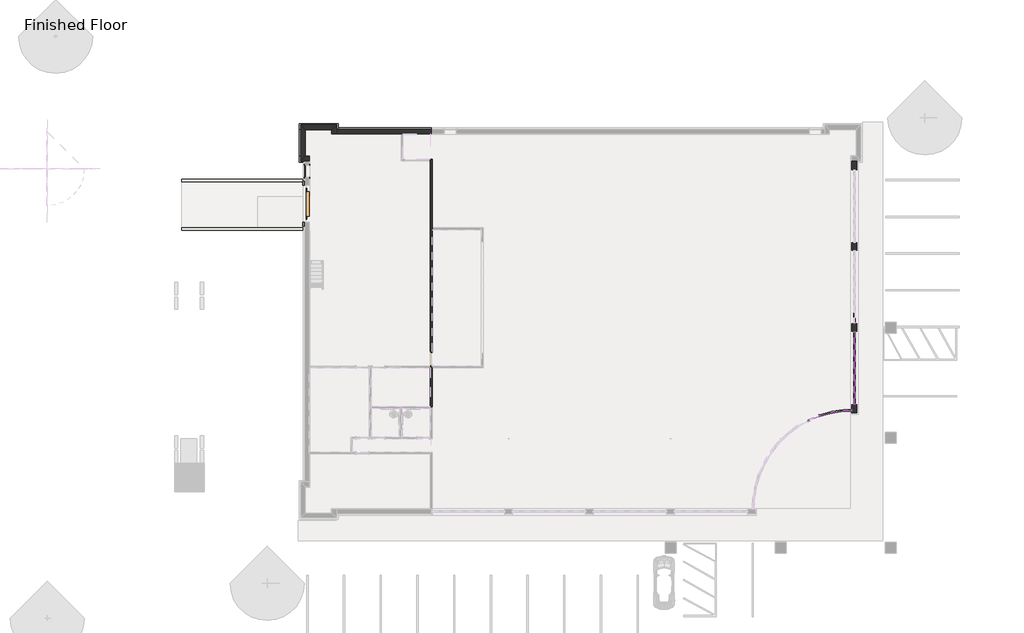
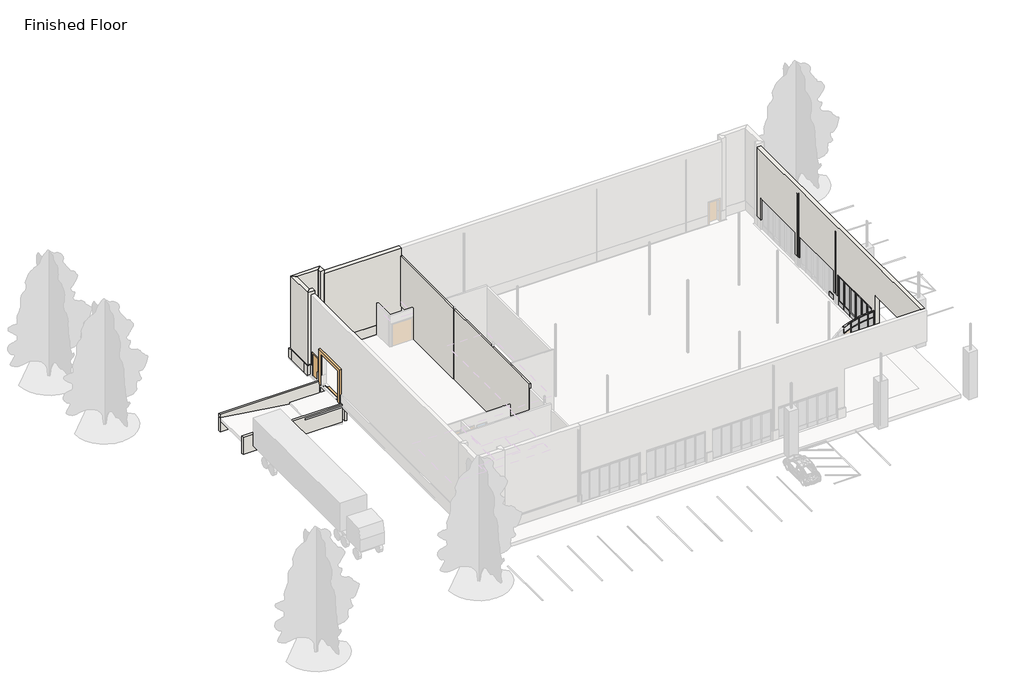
# One storey, part 4 of 6: 55 members, 18 plates, 15 walls, 2 doors.
"""IFC4 building model written with IfcOpenShell, lengths in millimetres."""

from ifc_helpers import new_model, si_unit, frame, origin, place, context, project, spatial, polyline, circle_curve, outline, extrude, faceted_brep, transform, mapped, element, save
from ifc_brep_helpers import plane_surface, revolved_surface, advanced_brep
from components import door_9096417d, door_632be17d, member_d2e7e466, member_7db1855a, member_a397ac22, member_d702d02f, member_57980dff, member_b5e65c95, member_069002c8, member_a75f139a, member_8a16213d, member_a608d019, member_c5eeba41, member_830eb86c, member_dbd57660, member_24c26854, member_d4789dbb, member_c17f1be2, member_ad567e07, member_7c546d85, member_6e77e263, rectangular_mullion_tall_mullion_dc5872ae, rectangular_mullion_tall_mullion_643de06f, system_panel_glazed_a343adf7, system_panel_glazed_9a2244e3, system_panel_glazed_6d8c8de5, system_panel_glazed_2d85ec54, system_panel_glazed_f449fc8c, system_panel_glazed_de0f3d3d, system_panel_glazed_0196836e, system_panel_glazed_685ee558

model = new_model("IFC4")

# Units and contexts
model_context = context("Model", 3, world=origin())
ifc_project = project(units=[si_unit("LENGTHUNIT", "METRE", prefix="MILLI")], contexts=[model_context])

# Site, building, storey
site = spatial("IfcSite", under=ifc_project)
building = spatial("IfcBuilding", under=site)
storey = spatial("IfcBuildingStorey", under=building, Name="Finished Floor", Elevation=0.0)

# Doors
placement = place(None, origin())
door_shape = door_9096417d(model_context)
element("IfcDoor", 1, ObjectType="OHD_WPADS_2491 : 8' x 6'-6\"", at=placement, inside=storey, context=model_context, shape_type="MappedRepresentation", body=[
    mapped(door_shape, transform((-22243.2602721, 8757.8686943, 0.0), x_axis=(0.0, -1.0, 0.0), y_axis=(1.0, 0.0, 0.0), z_axis=(0.0, 0.0, 1.0))),
])
door_2_shape = door_632be17d(model_context)
element("IfcDoor", 2, ObjectType="Single-Flush : 36\" x 84\"", at=placement, inside=storey, context=model_context, shape_type="MappedRepresentation", body=[
    mapped(door_2_shape, transform((-22243.2602721, 11196.2686943, 0.0), x_axis=(0.0, 1.0, 0.0), y_axis=(-1.0, 0.0, 0.0), z_axis=(0.0, 0.0, 1.0))),
])

# Members
member_shape = member_d2e7e466(model_context)
element("IfcMember", 3, ObjectType="Rectangular Mullion : 2.5\" x 5\" rectangular", at=placement, inside=storey, context=model_context, shape_type="MappedRepresentation", body=[
    mapped(member_shape, transform((18653.9147279, -3543.6688057, 3048.0), x_axis=(0.0, 0.0, 1.0), y_axis=(1.0, 0.0, 0.0), z_axis=(0.0, 1.0, 0.0))),
])
element("IfcMember", 4, ObjectType="Rectangular Mullion : 2.5\" x 5\" rectangular", at=placement, inside=storey, context=model_context, shape_type="MappedRepresentation", body=[
    mapped(member_shape, transform((18653.9147279, -2629.2688057, 3048.0), x_axis=(0.0, 0.0, 1.0), y_axis=(1.0, 0.0, 0.0), z_axis=(0.0, 1.0, 0.0))),
])
element("IfcMember", 5, ObjectType="Rectangular Mullion : 2.5\" x 5\" rectangular", at=placement, inside=storey, context=model_context, shape_type="MappedRepresentation", body=[
    mapped(member_shape, transform((18653.9147279, -1714.8688057, 3048.0), x_axis=(0.0, 0.0, 1.0), y_axis=(1.0, 0.0, 0.0), z_axis=(0.0, 1.0, 0.0))),
])
member_2_shape = member_7db1855a(model_context)
element("IfcMember", 6, ObjectType="Rectangular Mullion : 2.5\" x 5\" rectangular", at=placement, inside=storey, context=model_context, shape_type="MappedRepresentation", body=[
    mapped(member_2_shape, transform((18653.9147279, -2629.2688057, 2813.05), x_axis=(0.0, 0.0, 1.0), y_axis=(1.0, 0.0, 0.0), z_axis=(0.0, 1.0, 0.0))),
])
element("IfcMember", 7, ObjectType="Rectangular Mullion : 2.5\" x 5\" rectangular", at=placement, inside=storey, context=model_context, shape_type="MappedRepresentation", body=[
    mapped(member_2_shape, transform((18653.9147279, -1714.8688057, 2813.05), x_axis=(0.0, 0.0, 1.0), y_axis=(1.0, 0.0, 0.0), z_axis=(0.0, 1.0, 0.0))),
])
element("IfcMember", 8, ObjectType="Rectangular Mullion : 2.5\" x 5\" rectangular", at=placement, inside=storey, context=model_context, shape_type="MappedRepresentation", body=[
    mapped(member_shape, transform((18653.9147279, -4458.0688057, 3048.0), x_axis=(0.0, 0.0, 1.0), y_axis=(1.0, 0.0, 0.0), z_axis=(0.0, 1.0, 0.0))),
])
element("IfcMember", 9, ObjectType="Rectangular Mullion : 2.5\" x 5\" rectangular", at=placement, inside=storey, context=model_context, shape_type="MappedRepresentation", body=[
    mapped(member_shape, transform((18653.9147279, -5308.9688057, 0.0), x_axis=(0.0, 0.0, -1.0), y_axis=(1.0, 0.0, 0.0), z_axis=(0.0, -1.0, 0.0))),
])
element("IfcMember", 10, ObjectType="Rectangular Mullion : 2.5\" x 5\" rectangular", at=placement, inside=storey, context=model_context, shape_type="MappedRepresentation", body=[
    mapped(member_shape, transform((18653.9147279, -4394.5688057, 0.0), x_axis=(0.0, 0.0, -1.0), y_axis=(1.0, 0.0, 0.0), z_axis=(0.0, -1.0, 0.0))),
])
element("IfcMember", 11, ObjectType="Rectangular Mullion : 2.5\" x 5\" rectangular", at=placement, inside=storey, context=model_context, shape_type="MappedRepresentation", body=[
    mapped(member_2_shape, transform((18653.9147279, -4458.0688057, 2813.05), x_axis=(0.0, 0.0, 1.0), y_axis=(1.0, 0.0, 0.0), z_axis=(0.0, 1.0, 0.0))),
])
element("IfcMember", 12, ObjectType="Rectangular Mullion : 2.5\" x 5\" rectangular", at=placement, inside=storey, context=model_context, shape_type="MappedRepresentation", body=[
    mapped(member_2_shape, transform((18653.9147279, -3543.6688057, 2813.05), x_axis=(0.0, 0.0, 1.0), y_axis=(1.0, 0.0, 0.0), z_axis=(0.0, 1.0, 0.0))),
])
member_3_shape = member_a397ac22(model_context)
element("IfcMember", 13, ObjectType="Rectangular Mullion : 2.5\" x 5\" rectangular", at=placement, inside=storey, context=model_context, shape_type="MappedRepresentation", body=[
    mapped(member_3_shape, transform((16910.3461242, -6831.5128208, 3048.0), x_axis=(0.0, 0.0, 1.0), y_axis=(0.26796190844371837, -0.9634295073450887, 0.0), z_axis=(0.9634295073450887, 0.26796190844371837, 0.0))),
])
element("IfcMember", 14, ObjectType="Rectangular Mullion : 2.5\" x 5\" rectangular", at=placement, inside=storey, context=model_context, shape_type="MappedRepresentation", body=[
    mapped(member_3_shape, transform((17813.9991166, -6693.2741929, 3048.0), x_axis=(0.0, 0.0, 1.0), y_axis=(0.14697879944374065, -0.9891396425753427, 0.0), z_axis=(0.9891396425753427, 0.14697879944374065, 0.0))),
])
element("IfcMember", 15, ObjectType="Rectangular Mullion : 2.5\" x 5\" rectangular", at=placement, inside=storey, context=model_context, shape_type="MappedRepresentation", body=[
    mapped(member_3_shape, transform((16090.5639564, -7059.5216087, 0.0), x_axis=(0.0, 0.0, -1.0), y_axis=(0.2679619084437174, -0.963429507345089, 0.0), z_axis=(-0.963429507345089, -0.2679619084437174, 0.0))),
])
element("IfcMember", 16, ObjectType="Rectangular Mullion : 2.5\" x 5\" rectangular", at=placement, inside=storey, context=model_context, shape_type="MappedRepresentation", body=[
    mapped(member_3_shape, transform((16972.3401947, -6818.3384534, 0.0), x_axis=(0.0, 0.0, -1.0), y_axis=(0.14697879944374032, -0.9891396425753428, 0.0), z_axis=(-0.9891396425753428, -0.14697879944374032, 0.0))),
])
member_4_shape = member_d702d02f(model_context)
element("IfcMember", 17, ObjectType="Rectangular Mullion : 2.5\" x 5\" rectangular", at=placement, inside=storey, context=model_context, shape_type="MappedRepresentation", body=[
    mapped(member_4_shape, transform((16910.3461242, -6831.5128208, 2470.15), x_axis=(0.0, 0.0, 1.0), y_axis=(0.26796190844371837, -0.9634295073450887, 0.0), z_axis=(0.9634295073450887, 0.26796190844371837, 0.0))),
])
element("IfcMember", 18, ObjectType="Rectangular Mullion : 2.5\" x 5\" rectangular", at=placement, inside=storey, context=model_context, shape_type="MappedRepresentation", body=[
    mapped(member_4_shape, transform((17813.9991166, -6693.2741929, 2470.15), x_axis=(0.0, 0.0, 1.0), y_axis=(0.14697879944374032, -0.9891396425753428, 0.0), z_axis=(0.9891396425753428, 0.14697879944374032, 0.0))),
])
member_5_shape = member_57980dff(model_context)
element("IfcMember", 19, ObjectType="Rectangular Mullion : 2.5\" x 5\" rectangular", at=placement, inside=storey, context=model_context, shape_type="MappedRepresentation", body=[
    mapped(member_5_shape, transform((16059.9750695, -7068.0293993, 0.0), x_axis=(0.9450140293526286, 0.32702979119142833, 0.0), y_axis=(0.32702979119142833, -0.9450140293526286, 0.0), z_axis=(0.0, 0.0, -1.0))),
])
element("IfcMember", 20, ObjectType="Rectangular Mullion : 2.5\" x 5\" rectangular", at=placement, inside=storey, context=model_context, shape_type="MappedRepresentation", body=[
    mapped(member_5_shape, transform((16940.935011, -6823.0050302, 0.0), x_axis=(0.9781568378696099, 0.2078682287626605, 0.0), y_axis=(0.2078682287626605, -0.9781568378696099, 0.0), z_axis=(0.0, 0.0, -1.0))),
])
element("IfcMember", 21, ObjectType="Rectangular Mullion : 2.5\" x 5\" rectangular", at=placement, inside=storey, context=model_context, shape_type="MappedRepresentation", body=[
    mapped(member_5_shape, transform((17845.4043002, -6688.607616, 0.0), x_axis=(0.9963358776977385, 0.08552671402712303, 0.0), y_axis=(0.08552671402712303, -0.9963358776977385, 0.0), z_axis=(0.0, 0.0, -1.0))),
])
member_6_shape = member_b5e65c95(model_context)
element("IfcMember", 22, ObjectType="Rectangular Mullion : 2.5\" x 5\" rectangular", at=placement, inside=storey, context=model_context, shape_type="MappedRepresentation", body=[
    mapped(member_6_shape, transform((16059.9750695, -7068.0293993, 2470.15), x_axis=(0.9450140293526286, 0.32702979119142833, 0.0), y_axis=(0.32702979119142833, -0.9450140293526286, 0.0), z_axis=(0.0, 0.0, -1.0))),
])
element("IfcMember", 23, ObjectType="Rectangular Mullion : 2.5\" x 5\" rectangular", at=placement, inside=storey, context=model_context, shape_type="MappedRepresentation", body=[
    mapped(member_6_shape, transform((16940.935011, -6823.0050302, 2470.15), x_axis=(0.9781568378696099, 0.2078682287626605, 0.0), y_axis=(0.2078682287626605, -0.9781568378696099, 0.0), z_axis=(0.0, 0.0, -1.0))),
])
element("IfcMember", 24, ObjectType="Rectangular Mullion : 2.5\" x 5\" rectangular", at=placement, inside=storey, context=model_context, shape_type="MappedRepresentation", body=[
    mapped(member_6_shape, transform((17845.4043002, -6688.607616, 2470.15), x_axis=(0.9963358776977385, 0.08552671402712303, 0.0), y_axis=(0.08552671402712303, -0.9963358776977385, 0.0), z_axis=(0.0, 0.0, -1.0))),
])
member_7_shape = member_069002c8(model_context)
element("IfcMember", 25, ObjectType="Rectangular Mullion : 2.5\" x 5\" rectangular", at=placement, inside=storey, context=model_context, shape_type="MappedRepresentation", body=[
    mapped(member_7_shape, transform((18653.9147279, -3511.9188057, 0.0), x_axis=(0.0, 1.0, 0.0), y_axis=(1.0, 0.0, 0.0), z_axis=(0.0, 0.0, -1.0))),
])
element("IfcMember", 26, ObjectType="Rectangular Mullion : 2.5\" x 5\" rectangular", at=placement, inside=storey, context=model_context, shape_type="MappedRepresentation", body=[
    mapped(member_7_shape, transform((18653.9147279, -2597.5188057, 0.0), x_axis=(0.0, 1.0, 0.0), y_axis=(1.0, 0.0, 0.0), z_axis=(0.0, 0.0, -1.0))),
])
element("IfcMember", 27, ObjectType="Rectangular Mullion : 2.5\" x 5\" rectangular", at=placement, inside=storey, context=model_context, shape_type="MappedRepresentation", body=[
    mapped(member_7_shape, transform((18653.9147279, -1683.1188057, 0.0), x_axis=(0.0, 1.0, 0.0), y_axis=(1.0, 0.0, 0.0), z_axis=(0.0, 0.0, -1.0))),
])
member_8_shape = member_a75f139a(model_context)
element("IfcMember", 28, ObjectType="Rectangular Mullion : 2.5\" x 5\" rectangular", at=placement, inside=storey, context=model_context, shape_type="MappedRepresentation", body=[
    mapped(member_8_shape, transform((18653.9147279, -3511.9188057, 2813.05), x_axis=(0.0, 1.0, 0.0), y_axis=(1.0, 0.0, 0.0), z_axis=(0.0, 0.0, -1.0))),
])
element("IfcMember", 29, ObjectType="Rectangular Mullion : 2.5\" x 5\" rectangular", at=placement, inside=storey, context=model_context, shape_type="MappedRepresentation", body=[
    mapped(member_8_shape, transform((18653.9147279, -2597.5188057, 2813.05), x_axis=(0.0, 1.0, 0.0), y_axis=(1.0, 0.0, 0.0), z_axis=(0.0, 0.0, -1.0))),
])
element("IfcMember", 30, ObjectType="Rectangular Mullion : 2.5\" x 5\" rectangular", at=placement, inside=storey, context=model_context, shape_type="MappedRepresentation", body=[
    mapped(member_8_shape, transform((18653.9147279, -1683.1188057, 2813.05), x_axis=(0.0, 1.0, 0.0), y_axis=(1.0, 0.0, 0.0), z_axis=(0.0, 0.0, -1.0))),
])
element("IfcMember", 31, ObjectType="Rectangular Mullion : 2.5\" x 5\" rectangular", at=placement, inside=storey, context=model_context, shape_type="MappedRepresentation", body=[
    mapped(member_7_shape, transform((18653.9147279, -4426.3188057, 0.0), x_axis=(0.0, 1.0, 0.0), y_axis=(1.0, 0.0, 0.0), z_axis=(0.0, 0.0, -1.0))),
])
element("IfcMember", 32, ObjectType="Rectangular Mullion : 2.5\" x 5\" rectangular", at=placement, inside=storey, context=model_context, shape_type="MappedRepresentation", body=[
    mapped(member_7_shape, transform((18653.9147279, -5340.7188057, 0.0), x_axis=(0.0, 1.0, 0.0), y_axis=(1.0, 0.0, 0.0), z_axis=(0.0, 0.0, -1.0))),
])
element("IfcMember", 33, ObjectType="Rectangular Mullion : 2.5\" x 5\" rectangular", at=placement, inside=storey, context=model_context, shape_type="MappedRepresentation", body=[
    mapped(member_8_shape, transform((18653.9147279, -4426.3188057, 2813.05), x_axis=(0.0, 1.0, 0.0), y_axis=(1.0, 0.0, 0.0), z_axis=(0.0, 0.0, -1.0))),
])
element("IfcMember", 34, ObjectType="Rectangular Mullion : 2.5\" x 5\" rectangular", at=placement, inside=storey, context=model_context, shape_type="MappedRepresentation", body=[
    mapped(member_8_shape, transform((18653.9147279, -5340.7188057, 2813.05), x_axis=(0.0, 1.0, 0.0), y_axis=(1.0, 0.0, 0.0), z_axis=(0.0, 0.0, -1.0))),
])
member_9_shape = member_8a16213d(model_context)
element("IfcMember", 35, ObjectType="Rectangular Mullion : 2.5\" x 5\" rectangular", at=placement, inside=storey, context=model_context, shape_type="MappedRepresentation", body=[
    mapped(member_9_shape, transform((18653.9147279, -768.7188057, 0.0), x_axis=(0.0, 1.0, 0.0), y_axis=(1.0, 0.0, 0.0), z_axis=(0.0, 0.0, -1.0))),
])
member_10_shape = member_a608d019(model_context)
element("IfcMember", 36, ObjectType="Rectangular Mullion : 2.5\" x 5\" rectangular", at=placement, inside=storey, context=model_context, shape_type="MappedRepresentation", body=[
    mapped(member_10_shape, transform((18653.9147279, -768.7188057, 2813.05), x_axis=(0.0, 1.0, 0.0), y_axis=(1.0, 0.0, 0.0), z_axis=(0.0, 0.0, -1.0))),
])
element("IfcMember", 37, ObjectType="Rectangular Mullion : 2.5\" x 5\" rectangular", at=placement, inside=storey, context=model_context, shape_type="MappedRepresentation", body=[
    mapped(member_10_shape, transform((18653.9147279, -6255.1188057, 3048.0), x_axis=(0.0, -1.0, 0.0), y_axis=(1.0, 0.0, 0.0), z_axis=(0.0, 0.0, 1.0))),
])
element("IfcMember", 38, ObjectType="Rectangular Mullion : 2.5\" x 5\" rectangular", at=placement, inside=storey, context=model_context, shape_type="MappedRepresentation", body=[
    mapped(member_10_shape, transform((18653.9147279, -209.9188057, 3048.0), x_axis=(0.0, -1.0, 0.0), y_axis=(1.0, 0.0, 0.0), z_axis=(0.0, 0.0, 1.0))),
])
element("IfcMember", 39, ObjectType="Rectangular Mullion : 2.5\" x 5\" rectangular", at=placement, inside=storey, context=model_context, shape_type="MappedRepresentation", body=[
    mapped(member_9_shape, transform((18653.9147279, -6255.1188057, 2813.05), x_axis=(0.0, -1.0, 0.0), y_axis=(1.0, 0.0, 0.0), z_axis=(0.0, 0.0, 1.0))),
])
element("IfcMember", 40, ObjectType="Rectangular Mullion : 2.5\" x 5\" rectangular", at=placement, inside=storey, context=model_context, shape_type="MappedRepresentation", body=[
    mapped(member_9_shape, transform((18653.9147279, -209.9188057, 2813.05), x_axis=(0.0, -1.0, 0.0), y_axis=(1.0, 0.0, 0.0), z_axis=(0.0, 0.0, 1.0))),
])
member_11_shape = member_c5eeba41(model_context)
element("IfcMember", 41, ObjectType="Rectangular Mullion : 2.5\" x 5\" rectangular", at=placement, inside=storey, context=model_context, shape_type="MappedRepresentation", body=[
    mapped(member_11_shape, transform((18477.7022279, -6661.5188057, 0.0), x_axis=(0.9990835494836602, 0.04280258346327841, 0.0), y_axis=(0.04280258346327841, -0.9990835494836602, 0.0), z_axis=(0.0, 0.0, -1.0))),
])
member_12_shape = member_830eb86c(model_context)
element("IfcMember", 42, ObjectType="Rectangular Mullion : 2.5\" x 5\" rectangular", at=placement, inside=storey, context=model_context, shape_type="MappedRepresentation", body=[
    mapped(member_12_shape, transform((18477.7022279, -6661.5188057, 2470.15), x_axis=(0.9990835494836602, 0.042802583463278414, 0.0), y_axis=(0.042802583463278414, -0.9990835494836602, 0.0), z_axis=(0.0, 0.0, -1.0))),
])
member_13_shape = member_dbd57660(model_context)
element("IfcMember", 43, ObjectType="Rectangular Mullion : 2.5\" x 5\" rectangular", at=placement, inside=storey, context=model_context, shape_type="MappedRepresentation", body=[
    mapped(member_13_shape, transform((18414.2604225, -6664.2367697, 3048.0), x_axis=(0.0, 0.0, 1.0), y_axis=(0.042802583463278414, -0.9990835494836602, 0.0), z_axis=(0.99908354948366, 0.04280258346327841, 0.0))),
])
member_14_shape = member_24c26854(model_context)
element("IfcMember", 44, ObjectType="Rectangular Mullion : 2.5\" x 5\" rectangular", at=placement, inside=storey, context=model_context, shape_type="MappedRepresentation", body=[
    mapped(member_14_shape, transform((17877.1252029, -6687.248634, 0.0), x_axis=(0.0, 0.0, -1.0), y_axis=(0.04280258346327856, -0.9990835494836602, 0.0), z_axis=(-0.99908354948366, -0.04280258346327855, 0.0))),
])
member_15_shape = member_d4789dbb(model_context)
element("IfcMember", 45, ObjectType="Rectangular Mullion : 2.5\" x 5\" rectangular", at=placement, inside=storey, context=model_context, shape_type="MappedRepresentation", body=[
    mapped(member_15_shape, transform((18414.2604225, -6664.2367697, 2470.15), x_axis=(0.0, 0.0, 1.0), y_axis=(0.042802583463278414, -0.9990835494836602, 0.0), z_axis=(0.99908354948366, 0.04280258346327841, 0.0))),
])
member_16_shape = member_c17f1be2(model_context)
element("IfcMember", 46, ObjectType="Rectangular Mullion : 2.5\" x 5\" rectangular", at=placement, inside=storey, context=model_context, shape_type="MappedRepresentation", body=[
    mapped(member_16_shape, transform((18653.9147279, -832.2188057, 3048.0), x_axis=(0.0, 0.0, 1.0), y_axis=(1.0, 0.0, 0.0), z_axis=(0.0, 1.0, 0.0))),
])
member_17_shape = member_ad567e07(model_context)
element("IfcMember", 47, ObjectType="Rectangular Mullion : 2.5\" x 5\" rectangular", at=placement, inside=storey, context=model_context, shape_type="MappedRepresentation", body=[
    mapped(member_17_shape, transform((18653.9147279, -5372.4688057, 2813.05), x_axis=(0.0, 0.0, 1.0), y_axis=(1.0, 0.0, 0.0), z_axis=(0.0, 1.0, 0.0))),
])
element("IfcMember", 48, ObjectType="Rectangular Mullion : 2.5\" x 5\" rectangular", at=placement, inside=storey, context=model_context, shape_type="MappedRepresentation", body=[
    mapped(member_17_shape, transform((18653.9147279, -832.2188057, 2813.05), x_axis=(0.0, 0.0, 1.0), y_axis=(1.0, 0.0, 0.0), z_axis=(0.0, 1.0, 0.0))),
])
element("IfcMember", 49, ObjectType="Rectangular Mullion : 2.5\" x 5\" rectangular", at=placement, inside=storey, context=model_context, shape_type="MappedRepresentation", body=[
    mapped(member_16_shape, transform((18653.9147279, -5372.4688057, 3048.0), x_axis=(0.0, 0.0, 1.0), y_axis=(1.0, 0.0, 0.0), z_axis=(0.0, 1.0, 0.0))),
])
member_18_shape = member_7c546d85(model_context)
element("IfcMember", 50, ObjectType="Rectangular Mullion : 2.5\" x 5\" rectangular", at=placement, inside=storey, context=model_context, shape_type="MappedRepresentation", body=[
    mapped(member_18_shape, transform((16030.6704259, -7080.2482521, 2470.15), x_axis=(0.0, 0.0, 1.0), y_axis=(0.3848457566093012, -0.9229809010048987, 0.0), z_axis=(0.9229809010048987, 0.3848457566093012, 0.0))),
])
member_19_shape = member_6e77e263(model_context)
element("IfcMember", 51, ObjectType="Rectangular Mullion : 2.5\" x 5\" rectangular", at=placement, inside=storey, context=model_context, shape_type="MappedRepresentation", body=[
    mapped(member_19_shape, transform((15216.0013336, -7419.9323592, 2438.4), x_axis=(0.8974144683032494, 0.4411884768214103, 0.0), y_axis=(0.4411884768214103, -0.8974144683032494, 0.0), z_axis=(0.0, 0.0, -1.0))),
])
element("IfcMember", 52, ObjectType="Rectangular Mullion : 2.5\" x 5\" rectangular", at=placement, inside=storey, context=model_context, shape_type="MappedRepresentation", body=[
    mapped(member_3_shape, transform((16030.6704259, -7080.2482521, 3048.0), x_axis=(0.0, 0.0, 1.0), y_axis=(0.38484575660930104, -0.9229809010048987, 0.0), z_axis=(0.9229809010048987, 0.38484575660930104, 0.0))),
])
rectangular_mullion_tall_mullion_shape = rectangular_mullion_tall_mullion_dc5872ae(model_context)
element("IfcMember", 53, ObjectType="Rectangular Mullion : Tall Mullion", at=placement, inside=storey, context=model_context, shape_type="MappedRepresentation", body=[
    mapped(rectangular_mullion_tall_mullion_shape, transform((18653.9147279, -3480.1688057, 0.0), x_axis=(0.0, 0.0, -1.0), y_axis=(1.0, 0.0, 0.0), z_axis=(0.0, -1.0, 0.0))),
])
element("IfcMember", 54, ObjectType="Rectangular Mullion : Tall Mullion", at=placement, inside=storey, context=model_context, shape_type="MappedRepresentation", body=[
    mapped(rectangular_mullion_tall_mullion_shape, transform((18653.9147279, -2565.7688057, 0.0), x_axis=(0.0, 0.0, -1.0), y_axis=(1.0, 0.0, 0.0), z_axis=(0.0, -1.0, 0.0))),
])
rectangular_mullion_tall_mullion_2_shape = rectangular_mullion_tall_mullion_643de06f(model_context)
element("IfcMember", 55, ObjectType="Rectangular Mullion : Tall Mullion", at=placement, inside=storey, context=model_context, shape_type="MappedRepresentation", body=[
    mapped(rectangular_mullion_tall_mullion_2_shape, transform((18653.9147279, -6191.6188057, 0.0), x_axis=(0.0, 0.0, -1.0), y_axis=(1.0, 0.0, 0.0), z_axis=(0.0, -1.0, 0.0))),
])
element("IfcMember", 56, ObjectType="Rectangular Mullion : Tall Mullion", at=placement, inside=storey, context=model_context, shape_type="MappedRepresentation", body=[
    mapped(rectangular_mullion_tall_mullion_2_shape, transform((18653.9147279, -1651.3688057, 0.0), x_axis=(0.0, 0.0, -1.0), y_axis=(1.0, 0.0, 0.0), z_axis=(0.0, -1.0, 0.0))),
])
element("IfcMember", 57, ObjectType="Rectangular Mullion : Tall Mullion", at=placement, inside=storey, context=model_context, shape_type="MappedRepresentation", body=[
    mapped(rectangular_mullion_tall_mullion_2_shape, transform((18653.9147279, -146.4188057, 0.0), x_axis=(0.0, 0.0, -1.0), y_axis=(1.0, 0.0, 0.0), z_axis=(0.0, -1.0, 0.0))),
])

# Plates
system_panel_glazed_shape = system_panel_glazed_a343adf7(model_context)
element("IfcPlate", 58, ObjectType="System Panel : Glazed", at=placement, inside=storey, context=model_context, shape_type="MappedRepresentation", body=[
    mapped(system_panel_glazed_shape, transform((18653.9147279, -3054.7188057, 406.4), x_axis=(0.0, 1.0, 0.0), y_axis=(-1.0, 0.0, 0.0), z_axis=(0.0, 0.0, 1.0))),
])
element("IfcPlate", 59, ObjectType="System Panel : Glazed", at=placement, inside=storey, context=model_context, shape_type="MappedRepresentation", body=[
    mapped(system_panel_glazed_shape, transform((18653.9147279, -2140.3188057, 406.4), x_axis=(0.0, 1.0, 0.0), y_axis=(-1.0, 0.0, 0.0), z_axis=(0.0, 0.0, 1.0))),
])
element("IfcPlate", 60, ObjectType="System Panel : Glazed", at=placement, inside=storey, context=model_context, shape_type="MappedRepresentation", body=[
    mapped(system_panel_glazed_shape, transform((16500.4550403, -6945.5172148, 63.5), x_axis=(0.9634295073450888, 0.2679619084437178, 0.0), y_axis=(-0.2679619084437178, 0.9634295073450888, 0.0), z_axis=(0.0, 0.0, 1.0))),
])
element("IfcPlate", 61, ObjectType="System Panel : Glazed", at=placement, inside=storey, context=model_context, shape_type="MappedRepresentation", body=[
    mapped(system_panel_glazed_shape, transform((17393.1696556, -6755.8063231, 63.5), x_axis=(0.9891396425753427, 0.14697879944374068, 0.0), y_axis=(-0.14697879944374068, 0.9891396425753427, 0.0), z_axis=(0.0, 0.0, 1.0))),
])
system_panel_glazed_2_shape = system_panel_glazed_9a2244e3(model_context)
element("IfcPlate", 62, ObjectType="System Panel : Glazed", at=placement, inside=storey, context=model_context, shape_type="MappedRepresentation", body=[
    mapped(system_panel_glazed_2_shape, transform((18653.9147279, -3054.7188057, 2844.8), x_axis=(0.0, 1.0, 0.0), y_axis=(-1.0, 0.0, 0.0), z_axis=(0.0, 0.0, 1.0))),
])
element("IfcPlate", 63, ObjectType="System Panel : Glazed", at=placement, inside=storey, context=model_context, shape_type="MappedRepresentation", body=[
    mapped(system_panel_glazed_2_shape, transform((18653.9147279, -2140.3188057, 2844.8), x_axis=(0.0, 1.0, 0.0), y_axis=(-1.0, 0.0, 0.0), z_axis=(0.0, 0.0, 1.0))),
])
element("IfcPlate", 64, ObjectType="System Panel : Glazed", at=placement, inside=storey, context=model_context, shape_type="MappedRepresentation", body=[
    mapped(system_panel_glazed_2_shape, transform((18653.9147279, -3969.1188057, 2844.8), x_axis=(0.0, 1.0, 0.0), y_axis=(-1.0, 0.0, 0.0), z_axis=(0.0, 0.0, 1.0))),
])
element("IfcPlate", 65, ObjectType="System Panel : Glazed", at=placement, inside=storey, context=model_context, shape_type="MappedRepresentation", body=[
    mapped(system_panel_glazed_2_shape, transform((18653.9147279, -4883.5188057, 2844.8), x_axis=(0.0, 1.0, 0.0), y_axis=(-1.0, 0.0, 0.0), z_axis=(0.0, 0.0, 1.0))),
])
system_panel_glazed_3_shape = system_panel_glazed_6d8c8de5(model_context)
element("IfcPlate", 66, ObjectType="System Panel : Glazed", at=placement, inside=storey, context=model_context, shape_type="MappedRepresentation", body=[
    mapped(system_panel_glazed_3_shape, transform((18653.9147279, -3969.1188057, 63.5), x_axis=(0.0, 1.0, 0.0), y_axis=(-1.0, 0.0, 0.0), z_axis=(0.0, 0.0, 1.0))),
])
element("IfcPlate", 67, ObjectType="System Panel : Glazed", at=placement, inside=storey, context=model_context, shape_type="MappedRepresentation", body=[
    mapped(system_panel_glazed_3_shape, transform((18653.9147279, -4883.5188057, 63.5), x_axis=(0.0, 1.0, 0.0), y_axis=(-1.0, 0.0, 0.0), z_axis=(0.0, 0.0, 1.0))),
])
system_panel_glazed_4_shape = system_panel_glazed_2d85ec54(model_context)
element("IfcPlate", 68, ObjectType="System Panel : Glazed", at=placement, inside=storey, context=model_context, shape_type="MappedRepresentation", body=[
    mapped(system_panel_glazed_4_shape, transform((16500.4550403, -6945.5172148, 2501.9), x_axis=(0.9634295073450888, 0.26796190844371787, 0.0), y_axis=(-0.26796190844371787, 0.9634295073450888, 0.0), z_axis=(0.0, 0.0, 1.0))),
])
element("IfcPlate", 69, ObjectType="System Panel : Glazed", at=placement, inside=storey, context=model_context, shape_type="MappedRepresentation", body=[
    mapped(system_panel_glazed_4_shape, transform((17393.1696556, -6755.8063231, 2501.9), x_axis=(0.9891396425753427, 0.14697879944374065, 0.0), y_axis=(-0.14697879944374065, 0.9891396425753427, 0.0), z_axis=(0.0, 0.0, 1.0))),
])
system_panel_glazed_5_shape = system_panel_glazed_f449fc8c(model_context)
element("IfcPlate", 70, ObjectType="System Panel : Glazed", at=placement, inside=storey, context=model_context, shape_type="MappedRepresentation", body=[
    mapped(system_panel_glazed_5_shape, transform((18653.9147279, -5782.0438057, 406.4), x_axis=(0.0, 1.0, 0.0), y_axis=(-1.0, 0.0, 0.0), z_axis=(0.0, 0.0, 1.0))),
])
element("IfcPlate", 71, ObjectType="System Panel : Glazed", at=placement, inside=storey, context=model_context, shape_type="MappedRepresentation", body=[
    mapped(system_panel_glazed_5_shape, transform((18653.9147279, -1241.7938057, 406.4), x_axis=(0.0, 1.0, 0.0), y_axis=(-1.0, 0.0, 0.0), z_axis=(0.0, 0.0, 1.0))),
])
system_panel_glazed_6_shape = system_panel_glazed_de0f3d3d(model_context)
element("IfcPlate", 72, ObjectType="System Panel : Glazed", at=placement, inside=storey, context=model_context, shape_type="MappedRepresentation", body=[
    mapped(system_panel_glazed_6_shape, transform((18653.9147279, -5782.0438057, 2844.8), x_axis=(0.0, 1.0, 0.0), y_axis=(-1.0, 0.0, 0.0), z_axis=(0.0, 0.0, 1.0))),
])
element("IfcPlate", 73, ObjectType="System Panel : Glazed", at=placement, inside=storey, context=model_context, shape_type="MappedRepresentation", body=[
    mapped(system_panel_glazed_6_shape, transform((18653.9147279, -1241.7938057, 2844.8), x_axis=(0.0, 1.0, 0.0), y_axis=(-1.0, 0.0, 0.0), z_axis=(0.0, 0.0, 1.0))),
])
system_panel_glazed_7_shape = system_panel_glazed_0196836e(model_context)
element("IfcPlate", 74, ObjectType="System Panel : Glazed", at=placement, inside=storey, context=model_context, shape_type="MappedRepresentation", body=[
    mapped(system_panel_glazed_7_shape, transform((18145.6928127, -6675.7427019, 63.5), x_axis=(0.9990835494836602, 0.04280258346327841, 0.0), y_axis=(-0.04280258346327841, 0.9990835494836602, 0.0), z_axis=(0.0, 0.0, 1.0))),
])
system_panel_glazed_8_shape = system_panel_glazed_685ee558(model_context)
element("IfcPlate", 75, ObjectType="System Panel : Glazed", at=placement, inside=storey, context=model_context, shape_type="MappedRepresentation", body=[
    mapped(system_panel_glazed_8_shape, transform((18145.6928127, -6675.7427019, 2501.9), x_axis=(0.9990835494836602, 0.042802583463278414, 0.0), y_axis=(-0.042802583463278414, 0.9990835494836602, 0.0), z_axis=(0.0, 0.0, 1.0))),
])

# Walls
element("IfcWall", 76, ObjectType="Exterior - Brick on Mtl. Stud", at=placement, inside=storey, context=model_context, shape_type="Brep", body=[
    faceted_brep([(-20031.8727721, 13993.4436943, 914.4), (-12953.2102721, 13993.4436943, 914.4), (-12953.2102721, 13993.4436943, 7620.0), (-20031.8727721, 13993.4436943, 7620.0), (-20031.8727721, 14345.8686943, 914.4), (-20031.8727721, 14345.8686943, 7620.0), (-12953.2102721, 14345.8686943, 7620.0), (-12953.2102721, 14345.8686943, 914.4), (-12953.2102721, 14336.3436943, 914.4)], [[[0, 1, 2, 3]], [[4, 5, 6, 7]], [[1, 0, 4, 7, 8]], [[3, 2, 6, 5]], [[0, 3, 5, 4]], [[1, 8, 7, 6, 2]]]),
])
element("IfcWall", 77, ObjectType="Exterior - Brick on Mtl. Stud", at=placement, inside=storey, context=model_context, shape_type="AdvancedBrep", body=[
    advanced_brep(
    [(18477.7022279, -14054.5063057, 7620.0), (18477.7022279, 11958.2686943, 7620.0), (18477.7022279, 11958.2686943, 914.4), (18477.7022279, 11856.6686943, 914.4), (18477.7022279, 11321.6811943, 914.4), (18477.7022279, 11321.6811943, 3048.0), (18477.7022279, 5835.2811943, 3048.0), (18477.7022279, 5835.2811943, 914.4), (18477.7022279, 5276.4811943, 914.4), (18477.7022279, 5276.4811943, 3048.0), (18477.7022279, -209.9188057, 3048.0), (18477.7022279, -209.9188057, 914.4), (18477.7022279, -768.7188057, 914.4), (18477.7022279, -768.7188057, 3048.0), (18477.7022279, -6255.1188057, 3048.0), (18477.7022279, -6255.1188057, 914.4), (18477.7022279, -6837.7313057, 914.4), (18477.7022279, -6837.7313057, 3048.0), (18477.7022279, -6837.7313057, 4625.5040439), (18477.7022279, -14054.5063057, 4625.5040439), (18830.1272279, 11958.2686943, 7620.0), (18830.1272279, -14054.5063057, 7620.0), (18830.1272279, -14054.5063057, 4625.5040439), (18830.1272279, -6846.341628, 4625.5040439), (18830.1272279, -6846.341628, 914.4), (18830.1272279, -6255.1188057, 914.4), (18830.1272279, -6255.1188057, 3048.0), (18830.1272279, -768.7188057, 3048.0), (18830.1272279, -768.7188057, 914.4), (18830.1272279, -209.9188057, 914.4), (18830.1272279, -209.9188057, 3048.0), (18830.1272279, 5276.4811943, 3048.0), (18830.1272279, 5276.4811943, 914.4), (18830.1272279, 5835.2811943, 914.4), (18830.1272279, 5835.2811943, 3048.0), (18830.1272279, 11321.6811943, 3048.0), (18830.1272279, 11321.6811943, 914.4), (18830.1272279, 11958.2686943, 914.4)],
    [
        (0, 1),
        (1, 2),
        (2, 3),
        (3, 4),
        (4, 5),
        (5, 6),
        (6, 7),
        (7, 8),
        (8, 9),
        (9, 10),
        (10, 11),
        (11, 12),
        (12, 13),
        (13, 14),
        (14, 15),
        (15, 16),
        (16, 17),
        (17, 18),
        (18, 19),
        (19, 0),
        (20, 21),
        (21, 22),
        (22, 23),
        (23, 24),
        (24, 25),
        (25, 26),
        (26, 27),
        (27, 28),
        (28, 29),
        (29, 30),
        (30, 31),
        (31, 32),
        (32, 33),
        (33, 34),
        (34, 35),
        (35, 36),
        (36, 37),
        (37, 20),
        (6, 34),
        (33, 7),
        (5, 35),
        (4, 36),
        (10, 30),
        (29, 11),
        (9, 31),
        (8, 32),
        (14, 26),
        (25, 15),
        (13, 27),
        (12, 28),
        (0, 21),
        (20, 1),
        (2, 37),
        (24, 16, circle_curve(frame((18477.7022279, -14054.5063057, 914.4), z_axis=(0.0, 0.0, 1.0), x_axis=(1.0, 0.0, 0.0)), 7216.775)),
        (18, 23, circle_curve(frame((18477.7022279, -14054.5063057, 4625.5040439), z_axis=(0.0, 0.0, -1.0), x_axis=(1.0, 0.0, 0.0)), 7216.775)),
        (22, 19),
    ],
    [
        plane_surface(frame((18477.7022279, 12134.4811943, 7620.0), z_axis=(-1.0, 0.0, 0.0), x_axis=(0.0, 0.0, -1.0))),
        plane_surface(frame((18830.1272279, 12134.4811943, 7620.0), z_axis=(1.0, 0.0, 0.0), x_axis=(0.0, 0.0, 1.0))),
        plane_surface(frame((18325.3022279, 5835.2811943, 0.0), z_axis=(0.0, 1.0, 0.0), x_axis=(1.0, 0.0, 0.0))),
        plane_surface(frame((18325.3022279, 5835.2811943, 3048.0), z_axis=(0.0, 0.0, -1.0), x_axis=(1.0, 0.0, 0.0))),
        plane_surface(frame((18325.3022279, 11321.6811943, 3048.0), z_axis=(0.0, -1.0, 0.0), x_axis=(1.0, 0.0, 0.0))),
        plane_surface(frame((18325.3022279, -209.9188057, 0.0), z_axis=(0.0, 1.0, 0.0), x_axis=(1.0, 0.0, 0.0))),
        plane_surface(frame((18325.3022279, -209.9188057, 3048.0), z_axis=(0.0, 0.0, -1.0), x_axis=(1.0, 0.0, 0.0))),
        plane_surface(frame((18325.3022279, 5276.4811943, 3048.0), z_axis=(0.0, -1.0, 0.0), x_axis=(1.0, 0.0, 0.0))),
        plane_surface(frame((18325.3022279, -6255.1188057, 0.0), z_axis=(0.0, 1.0, 0.0), x_axis=(1.0, 0.0, 0.0))),
        plane_surface(frame((18325.3022279, -6255.1188057, 3048.0), z_axis=(0.0, 0.0, -1.0), x_axis=(1.0, 0.0, 0.0))),
        plane_surface(frame((18325.3022279, -768.7188057, 3048.0), z_axis=(0.0, -1.0, 0.0), x_axis=(1.0, 0.0, 0.0))),
        plane_surface(frame((18477.7022279, -14230.7188057, 7620.0), z_axis=(0.0, 0.0, 1.0), x_axis=(1.0, 0.0, 0.0))),
        plane_surface(frame((18477.7022279, 12134.4811943, 914.4), z_axis=(0.0, 0.0, -1.0), x_axis=(1.0, 0.0, 0.0))),
        plane_surface(frame((18477.7022279, -6663.6191241, 4625.5040439), z_axis=(0.0, 0.0, -1.0), x_axis=(1.0, 0.0, 0.0))),
        plane_surface(frame((-12953.2102721, -14054.5063057, 7620.0), z_axis=(0.0, -1.0, 0.0), x_axis=(1.0, 0.0, 0.0))),
        plane_surface(frame((19236.5272279, 11958.2686943, 914.4), z_axis=(0.0, 1.0, 0.0), x_axis=(1.0, 0.0, 0.0))),
        revolved_surface(polyline([(25694.477227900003, -14054.5063057, 914.4000000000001), (25694.477227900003, -14054.5063057, 4625.5040439)]), (18477.7022279, -14054.5063057, 4572.0), (0.0, 0.0, -1.0)),
    ],
    [
        (0, [[1, 2, 3, 4, 5, 6, 7, 8, 9, 10, 11, 12, 13, 14, 15, 16, 17, 18, 19, 20]]),
        (1, [[21, 22, 23, 24, 25, 26, 27, 28, 29, 30, 31, 32, 33, 34, 35, 36, 37, 38]]),
        (2, [[39, -34, 40, -7]]),
        (3, [[-39, -6, 41, -35]]),
        (4, [[-41, -5, 42, -36]]),
        (5, [[43, -30, 44, -11]]),
        (6, [[-43, -10, 45, -31]]),
        (7, [[-45, -9, 46, -32]]),
        (8, [[47, -26, 48, -15]]),
        (9, [[-47, -14, 49, -27]]),
        (10, [[-49, -13, 50, -28]]),
        (11, [[-1, 51, -21, 52]]),
        (12, [[-40, -33, -46, -8]]),
        (12, [[-44, -29, -50, -12]]),
        (12, [[-4, -3, 53, -37, -42]]),
        (12, [[54, -16, -48, -25]]),
        (13, [[-19, 55, -23, 56]]),
        (14, [[-20, -56, -22, -51]]),
        (15, [[-2, -52, -38, -53]]),
        (16, [[-18, -17, -54, -24, -55]]),
    ],
),
])
element("IfcWall", 78, ObjectType="Exterior - Brick on Mtl. Stud", at=placement, inside=storey, context=model_context, shape_type="SweptSolid", body=[
    extrude(outline(polyline([(-20031.8727721, 14650.6686943), (-20031.8727721, 13993.4436943), (-20384.2977721, 13993.4436943), (-20384.2977721, 14298.2436943), (-20031.8727721, 14650.6686943)])), frame((0.0, 0.0, 914.4), z_axis=(0.0, 0.0, 1.0), x_axis=(1.0, 0.0, 0.0)), (0.0, 0.0, 1.0), 7010.4),
])
element("IfcWall", 79, ObjectType="Exterior - Brick on Mtl. Stud", at=placement, inside=storey, context=model_context, shape_type="SweptSolid", body=[
    extrude(outline(polyline([(-22724.2727721, 14650.6686943), (-20031.8727721, 14650.6686943), (-20384.2977721, 14298.2436943), (-22371.8477721, 14298.2436943), (-22724.2727721, 14650.6686943)])), frame((0.0, 0.0, 914.4), z_axis=(0.0, 0.0, 1.0), x_axis=(1.0, 0.0, 0.0)), (0.0, 0.0, 1.0), 7010.4),
])
element("IfcWall", 80, ObjectType="Exterior - Brick on Mtl. Stud", at=placement, inside=storey, context=model_context, shape_type="SweptSolid", body=[
    extrude(outline(polyline([(-22724.2727721, 11958.2686943), (-22724.2727721, 14650.6686943), (-22371.8477721, 14298.2436943), (-22371.8477721, 12310.6936943), (-22724.2727721, 11958.2686943)])), frame((0.0, 0.0, 914.4), z_axis=(0.0, 0.0, 1.0), x_axis=(1.0, 0.0, 0.0)), (0.0, 0.0, 1.0), 7010.4),
])
element("IfcWall", 81, ObjectType="Exterior - Brick on Mtl. Stud", at=placement, inside=storey, context=model_context, shape_type="SweptSolid", body=[
    extrude(outline(polyline([(-22067.0477721, 11958.2686943), (-22724.2727721, 11958.2686943), (-22371.8477721, 12310.6936943), (-22067.0477721, 12310.6936943), (-22067.0477721, 11958.2686943)])), frame((0.0, 0.0, 914.4), z_axis=(0.0, 0.0, 1.0), x_axis=(1.0, 0.0, 0.0)), (0.0, 0.0, 1.0), 7010.4),
])
element("IfcWall", 82, ObjectType="Exterior - CMU", at=placement, inside=storey, context=model_context, shape_type="SweptSolid", body=[
    extrude(outline(polyline([(-22295.6477721, 6776.6686943), (-22295.6477721, 10612.0686943), (-22101.9727721, 10612.0686943), (-22101.9727721, 6776.6686943), (-22295.6477721, 6776.6686943)])), frame((0.0, 0.0, -1524.0), z_axis=(0.0, 0.0, 1.0), x_axis=(1.0, 0.0, 0.0)), (0.0, 0.0, 1.0), 1219.2),
])
element("IfcWall", 83, ObjectType="Exterior - CMU", at=placement, inside=storey, context=model_context, shape_type="SweptSolid", body=[
    extrude(outline(polyline([(-31624.494325, 10612.0686943), (-22521.0727721, 10612.0686943), (-22521.0727721, 10418.3936943), (-31624.494325, 10418.3936943), (-31624.494325, 10612.0686943)])), frame((0.0, 0.0, -1524.0), z_axis=(0.0, 0.0, 1.0), x_axis=(1.0, 0.0, 0.0)), (0.0, 0.0, 1.0), 1676.4),
])
element("IfcWall", 84, ObjectType="Exterior - CMU", at=placement, inside=storey, context=model_context, shape_type="SweptSolid", body=[
    extrude(outline(polyline([(-31624.494325, 6970.3436943), (-22521.0727721, 6970.3436943), (-22521.0727721, 6776.6686943), (-31624.494325, 6776.6686943), (-31624.494325, 6970.3436943)])), frame((0.0, 0.0, -1524.0), z_axis=(0.0, 0.0, 1.0), x_axis=(1.0, 0.0, 0.0)), (0.0, 0.0, 1.0), 1676.4),
])
element("IfcWall", 85, ObjectType="Exterior - CMU on Mtl. Stud", at=placement, inside=storey, context=model_context, shape_type="Brep", body=[
    faceted_brep([(-20031.8727721, 13993.4436943, 0.0), (-15205.8727721, 13993.4436943, 0.0), (-15085.2227721, 13993.4436943, 0.0), (-12953.2102721, 13993.4436943, 0.0), (-12953.2102721, 13993.4436943, 914.4), (-20031.8727721, 13993.4436943, 914.4), (-20031.8727721, 14447.4686943, 0.0), (-20031.8727721, 14447.4686943, 914.4), (-12953.2102721, 14447.4686943, 914.4), (-12953.2102721, 14447.4686943, 0.0), (-12953.2102721, 14253.7936943, 0.0), (-12953.2102721, 14345.8686943, 914.4), (-12953.2102721, 14336.3436943, 914.4), (-20031.8727721, 14345.8686943, 914.4), (-20031.8727721, 14336.3436943, 914.4), (-20031.8727721, 14253.7936943, 0.0)], [[[0, 1, 2, 3, 4, 5]], [[6, 7, 8, 9]], [[4, 3, 10, 9, 8, 11, 12]], [[5, 4, 12, 11, 8, 7, 13, 14]], [[0, 5, 14, 13, 7, 6, 15]], [[3, 2, 1, 0, 15, 10]], [[15, 6, 9, 10]]]),
])
element("IfcWall", 86, ObjectType="Exterior - CMU on Mtl. Stud", at=placement, inside=storey, context=model_context, shape_type="Brep", body=[
    faceted_brep([(-19930.2727721, 13993.4436943, 0.0), (-19930.2727721, 14752.2686943, 0.0), (-19930.2727721, 14752.2686943, 914.4), (-19930.2727721, 13993.4436943, 914.4), (-20384.2977721, 13993.4436943, 0.0), (-20384.2977721, 13993.4436943, 914.4), (-20384.2977721, 14298.2436943, 914.4), (-20384.2977721, 14752.2686943, 914.4), (-20384.2977721, 14752.2686943, 0.0), (-20384.2977721, 14298.2436943, 0.0), (-20041.3977721, 13993.4436943, 914.4), (-20031.8727721, 13993.4436943, 914.4), (-20123.9477721, 13993.4436943, 0.0), (-20123.9477721, 14752.2686943, 0.0)], [[[0, 1, 2, 3]], [[4, 5, 6, 7, 8, 9]], [[3, 2, 7, 6, 5, 10, 11]], [[0, 3, 11, 10, 5, 4, 12]], [[2, 1, 13, 8, 7]], [[12, 4, 9, 8, 13]], [[1, 0, 12, 13]]]),
])
element("IfcWall", 87, ObjectType="Exterior - CMU on Mtl. Stud", at=placement, inside=storey, context=model_context, shape_type="Brep", body=[
    faceted_brep([(-20384.2977721, 14752.2686943, 0.0), (-22825.8727721, 14752.2686943, 0.0), (-22825.8727721, 14752.2686943, 914.4), (-20384.2977721, 14752.2686943, 914.4), (-20384.2977721, 14298.2436943, 0.0), (-20384.2977721, 14298.2436943, 914.4), (-22371.8477721, 14298.2436943, 914.4), (-22825.8727721, 14298.2436943, 914.4), (-22825.8727721, 14298.2436943, 0.0), (-22371.8477721, 14298.2436943, 0.0), (-20384.2977721, 14558.5936943, 0.0), (-22825.8727721, 14558.5936943, 0.0)], [[[0, 1, 2, 3]], [[4, 5, 6, 7, 8, 9]], [[3, 2, 7, 6, 5]], [[0, 3, 5, 4, 10]], [[2, 1, 11, 8, 7]], [[10, 4, 9, 8, 11]], [[1, 0, 10, 11]]]),
])
element("IfcWall", 88, ObjectType="Exterior - CMU on Mtl. Stud", at=placement, inside=storey, context=model_context, shape_type="SweptSolid", body=[
    extrude(outline(polyline([(914.4, -22825.8727721), (0.0, -22825.8727721), (0.0, -22632.1977721), (0.0, -22371.8477721), (914.4, -22371.8477721), (914.4, -22825.8727721)])), frame((0.0, 12310.6936943, 0.0), z_axis=(0.0, 1.0, 0.0), x_axis=(0.0, 0.0, 1.0)), (0.0, 0.0, 1.0), 1987.55),
])
element("IfcWall", 89, ObjectType="Exterior - CMU on Mtl. Stud", at=placement, inside=storey, context=model_context, shape_type="Brep", body=[
    faceted_brep([(-22825.8727721, 11856.6686943, 0.0), (-22067.0477721, 11856.6686943, 0.0), (-22067.0477721, 11856.6686943, 914.4), (-22825.8727721, 11856.6686943, 914.4), (-22825.8727721, 12310.6936943, 0.0), (-22825.8727721, 12310.6936943, 914.4), (-22371.8477721, 12310.6936943, 914.4), (-22067.0477721, 12310.6936943, 914.4), (-22067.0477721, 12310.6936943, 0.0), (-22371.8477721, 12310.6936943, 0.0), (-22067.0477721, 12050.3436943, 0.0), (-22067.0477721, 11967.7936943, 914.4), (-22067.0477721, 11958.2686943, 914.4), (-22825.8727721, 12050.3436943, 0.0)], [[[0, 1, 2, 3]], [[4, 5, 6, 7, 8, 9]], [[2, 1, 10, 8, 7, 11, 12]], [[3, 2, 12, 11, 7, 6, 5]], [[0, 3, 5, 4, 13]], [[13, 4, 9, 8, 10]], [[1, 0, 13, 10]]]),
])
element("IfcWall", 90, ObjectType="Interior - 5 1/2\" Partition (1-hr)", at=placement, inside=storey, context=model_context, shape_type="Brep", body=[
    faceted_brep([(-12883.3602721, -6455.9375557, 0.0), (-12883.3602721, -3500.0125557, 0.0), (-12883.3602721, -3379.3625557, 0.0), (-12883.3602721, -3287.2875557, 0.0), (-12883.3602721, -3287.2875557, 2133.6), (-12883.3602721, -2372.8875557, 2133.6), (-12883.3602721, -2372.8875557, 0.0), (-12883.3602721, 6836.1999443, 0.0), (-12883.3602721, 6956.8499443, 0.0), (-12883.3602721, 12083.6811943, 0.0), (-12883.3602721, 12083.6811943, 1981.2), (-12883.3602721, 13993.4436943, 1981.2), (-12883.3602721, 13993.4436943, 6838.95), (-12883.3602721, -6455.9375557, 6838.95), (-12883.3602721, -6455.9375557, 6400.8), (-13023.0602721, -3287.2875557, 2133.6), (-13023.0602721, -3287.2875557, 0.0), (-13023.0602721, -3379.3625557, 0.0), (-13023.0602721, -3500.0125557, 0.0), (-13023.0602721, -6395.6125557, 0.0), (-13023.0602721, -6455.9375557, 0.0), (-13023.0602721, -6455.9375557, 6838.95), (-13023.0602721, 13993.4436943, 6838.95), (-13023.0602721, 13993.4436943, 1981.2), (-13023.0602721, 12083.6811943, 1981.2), (-13023.0602721, 12083.6811943, 0.0), (-13023.0602721, 11963.0311943, 0.0), (-13023.0602721, -2372.8875557, 0.0), (-13023.0602721, -2372.8875557, 2133.6)], [[[0, 1, 2, 3, 4, 5, 6, 7, 8, 9, 10, 11, 12, 13, 14]], [[15, 16, 17, 18, 19, 20, 21, 22, 23, 24, 25, 26, 27, 28]], [[13, 12, 22, 21]], [[11, 10, 24, 23]], [[20, 19, 18, 17, 16, 3, 2, 1, 0]], [[27, 26, 25, 9, 8, 7, 6]], [[6, 5, 28, 27]], [[5, 4, 15, 28]], [[4, 3, 16, 15]], [[10, 9, 25, 24]], [[12, 11, 23, 22]], [[13, 21, 20, 0, 14]]]),
])

save(model, "model.ifc")
